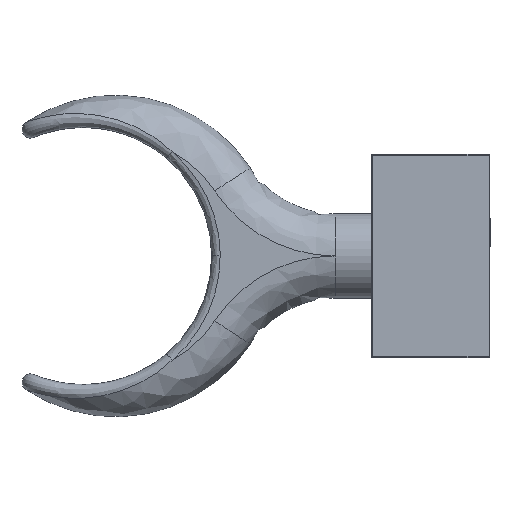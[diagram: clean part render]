
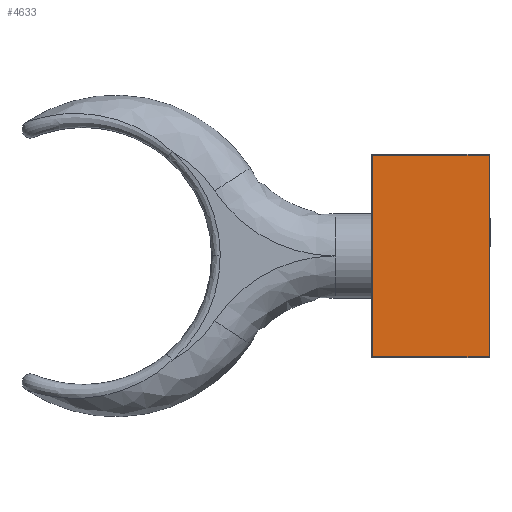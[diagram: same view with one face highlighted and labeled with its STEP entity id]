
A CAD part, top view. The second image highlights one B-rep face of the part: STEP entity #4633.
In plain terms, the highlighted planar face has unit normal (0, 0, 1).
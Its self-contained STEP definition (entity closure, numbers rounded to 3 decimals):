
#138 = VERTEX_POINT ( 'NONE', #3766 ) ;
#283 = DIRECTION ( 'NONE',  ( 1., 0., 0. ) ) ;
#369 = DIRECTION ( 'NONE',  ( 0., 0., 1. ) ) ;
#673 = VERTEX_POINT ( 'NONE', #3910 ) ;
#698 = LINE ( 'NONE', #2371, #1150 ) ;
#732 = ORIENTED_EDGE ( 'NONE', *, *, #5240, .T. ) ;
#788 = LINE ( 'NONE', #4307, #4538 ) ;
#1095 = DIRECTION ( 'NONE',  ( 0., -1., 0. ) ) ;
#1150 = VECTOR ( 'NONE', #6436, 1000. ) ;
#2299 = ORIENTED_EDGE ( 'NONE', *, *, #5011, .T. ) ;
#2371 = CARTESIAN_POINT ( 'NONE',  ( 0., 11.9, 8.5 ) ) ;
#2391 = CARTESIAN_POINT ( 'NONE',  ( 34.146, 0., 8.5 ) ) ;
#2687 = ORIENTED_EDGE ( 'NONE', *, *, #5560, .T. ) ;
#3264 = CARTESIAN_POINT ( 'NONE',  ( 47.946, -11.9, 8.5 ) ) ;
#3387 = ORIENTED_EDGE ( 'NONE', *, *, #6767, .T. ) ;
#3689 = VERTEX_POINT ( 'NONE', #4953 ) ;
#3766 = CARTESIAN_POINT ( 'NONE',  ( 47.946, 11.9, 8.5 ) ) ;
#3910 = CARTESIAN_POINT ( 'NONE',  ( 34.146, -11.9, 8.5 ) ) ;
#4267 = DIRECTION ( 'NONE',  ( 0., 1., 0. ) ) ;
#4307 = CARTESIAN_POINT ( 'NONE',  ( 47.946, 0., 8.5 ) ) ;
#4328 = LINE ( 'NONE', #6703, #7162 ) ;
#4538 = VECTOR ( 'NONE', #4267, 1000. ) ;
#4633 = ADVANCED_FACE ( 'NONE', ( #5440 ), #7302, .T. ) ;
#4953 = CARTESIAN_POINT ( 'NONE',  ( 34.146, 11.9, 8.5 ) ) ;
#5011 = EDGE_CURVE ( 'NONE', #3689, #673, #6958, .T. ) ;
#5240 = EDGE_CURVE ( 'NONE', #673, #6748, #4328, .T. ) ;
#5440 = FACE_OUTER_BOUND ( 'NONE', #6534, .T. ) ;
#5481 = DIRECTION ( 'NONE',  ( 1., 0., 0. ) ) ;
#5482 = CARTESIAN_POINT ( 'NONE',  ( 0., 0., 8.5 ) ) ;
#5560 = EDGE_CURVE ( 'NONE', #138, #3689, #698, .T. ) ;
#6212 = VECTOR ( 'NONE', #1095, 1000. ) ;
#6436 = DIRECTION ( 'NONE',  ( -1., 0., 0. ) ) ;
#6534 = EDGE_LOOP ( 'NONE', ( #3387, #2687, #2299, #732 ) ) ;
#6677 = AXIS2_PLACEMENT_3D ( 'NONE', #5482, #369, #283 ) ;
#6703 = CARTESIAN_POINT ( 'NONE',  ( 0., -11.9, 8.5 ) ) ;
#6748 = VERTEX_POINT ( 'NONE', #3264 ) ;
#6767 = EDGE_CURVE ( 'NONE', #6748, #138, #788, .T. ) ;
#6958 = LINE ( 'NONE', #2391, #6212 ) ;
#7162 = VECTOR ( 'NONE', #5481, 1000. ) ;
#7302 = PLANE ( 'NONE',  #6677 ) ;
